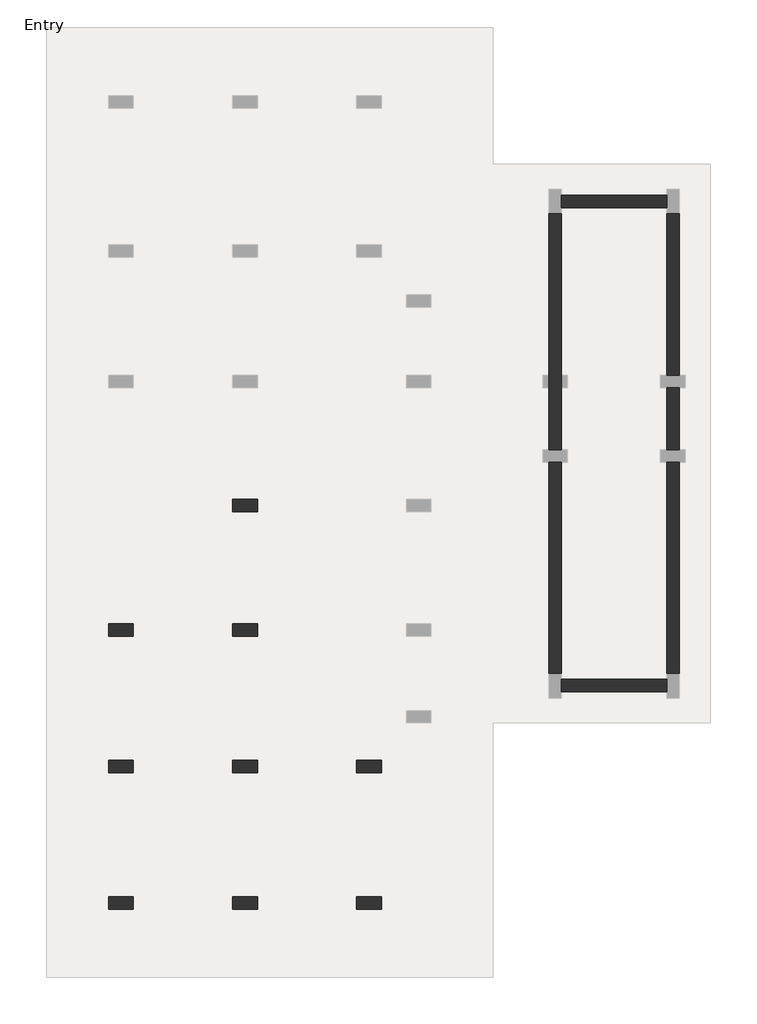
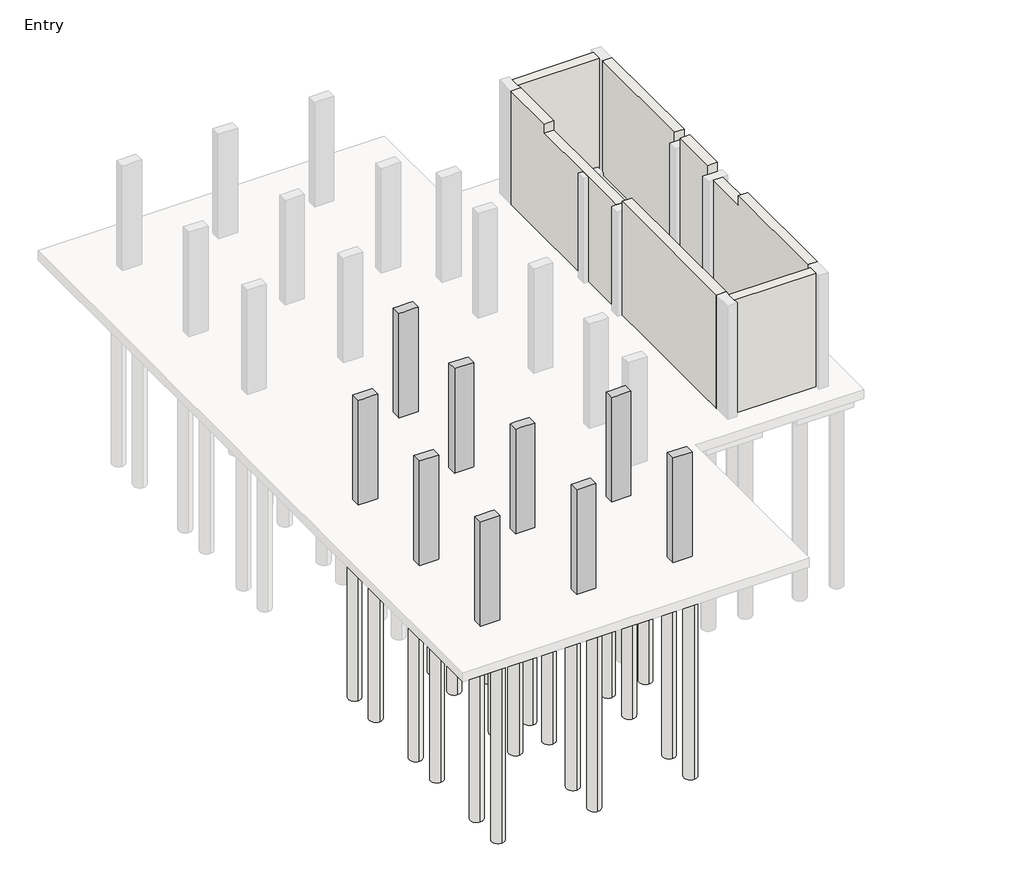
# One storey, part 1 of 3: 30 slabs, 9 columns, 7 walls.
"""IFC4 building model written with IfcOpenShell, lengths in millimetres."""

from ifc_helpers import new_model, si_unit, point, frame, frame_2d, origin, origin_with_axes, place, context, project, spatial, polyline, circle_curve, trimmed, segment, composite_curve, outline, extrude, faceted_brep, element, save

model = new_model("IFC4")

# Units and contexts
model_context = context("Model", 3, world=origin())
ifc_project = project(units=[si_unit("LENGTHUNIT", "METRE", prefix="MILLI")], contexts=[model_context])

# Site, building, storey
site = spatial("IfcSite", under=ifc_project)
building = spatial("IfcBuilding", under=site)
storey = spatial("IfcBuildingStorey", under=building, Name="Entry", Elevation=0.0)

# Columns
placement = place(None, origin())
element("IfcColumn", 1, ObjectType="Concrete-Rectangular-Column : 12 x 24", at=placement, inside=storey, context=model_context, shape_type="Brep", body=[
    faceted_brep([(-10423.1073204, 13863.0572372, 0.0), (-9813.5073204, 13863.0572372, 0.0), (-9813.5073204, 13558.2572372, 0.0), (-10423.1073204, 13558.2572372, 0.0), (-10423.1073204, 13863.0572372, 3505.2), (-10270.7073204, 13863.0572372, 3505.2), (-9965.9073204, 13863.0572372, 3505.2), (-9813.5073204, 13863.0572372, 3505.2), (-9813.5073204, 13863.0572372, 2895.6), (-9813.5073204, 13558.2572372, 3505.2), (-9813.5073204, 13558.2572372, 2895.6), (-9965.9073204, 13558.2572372, 3505.2), (-10270.7073204, 13558.2572372, 3505.2), (-10423.1073204, 13558.2572372, 3505.2)], [[[0, 1, 2, 3]], [[4, 5, 6, 7, 8, 1, 0]], [[7, 9, 10, 2, 1, 8]], [[9, 11, 12, 13, 3, 2, 10]], [[13, 4, 0, 3]], [[4, 13, 12, 11, 9, 7, 6, 5]]]),
])
element("IfcColumn", 2, ObjectType="Concrete-Rectangular-Column : 12 x 24", at=placement, inside=storey, context=model_context, shape_type="Brep", body=[
    faceted_brep([(-13471.1073204, 10815.0572372, 0.0), (-12861.5073204, 10815.0572372, 0.0), (-12861.5073204, 10510.2572372, 0.0), (-13471.1073204, 10510.2572372, 0.0), (-13471.1073204, 10815.0572372, 3505.2), (-12861.5073204, 10815.0572372, 3505.2), (-12861.5073204, 10815.0572372, 2895.6), (-12861.5073204, 10510.2572372, 3505.2), (-12861.5073204, 10510.2572372, 2895.6), (-13013.9073204, 10510.2572372, 3505.2), (-13318.7073204, 10510.2572372, 3505.2), (-13471.1073204, 10510.2572372, 3505.2)], [[[0, 1, 2, 3]], [[4, 5, 6, 1, 0]], [[5, 7, 8, 2, 1, 6]], [[7, 9, 10, 11, 3, 2, 8]], [[11, 4, 0, 3]], [[4, 11, 10, 9, 7, 5]]]),
])
element("IfcColumn", 3, ObjectType="Concrete-Rectangular-Column : 12 x 24", at=placement, inside=storey, context=model_context, shape_type="Brep", body=[
    faceted_brep([(-10423.1073204, 10815.0572372, 0.0), (-9813.5073204, 10815.0572372, 0.0), (-9813.5073204, 10510.2572372, 0.0), (-10423.1073204, 10510.2572372, 0.0), (-10423.1073204, 10815.0572372, 3505.2), (-10270.7073204, 10815.0572372, 3505.2), (-9965.9073204, 10815.0572372, 3505.2), (-9813.5073204, 10815.0572372, 3505.2), (-9813.5073204, 10815.0572372, 2895.6), (-10423.1073204, 10815.0572372, 2895.6), (-9813.5073204, 10510.2572372, 3505.2), (-9813.5073204, 10510.2572372, 2895.6), (-9965.9073204, 10510.2572372, 3505.2), (-10270.7073204, 10510.2572372, 3505.2), (-10423.1073204, 10510.2572372, 3505.2), (-10423.1073204, 10510.2572372, 2895.6)], [[[0, 1, 2, 3]], [[4, 5, 6, 7, 8, 1, 0, 9]], [[7, 10, 11, 2, 1, 8]], [[10, 12, 13, 14, 15, 3, 2, 11]], [[14, 4, 9, 0, 3, 15]], [[4, 14, 13, 12, 10, 7, 6, 5]]]),
])
element("IfcColumn", 4, ObjectType="Concrete-Rectangular-Column : 12 x 24", at=placement, inside=storey, context=model_context, shape_type="Brep", body=[
    faceted_brep([(-7375.8500241, 7462.2572372, 0.0), (-6766.2500241, 7462.2572372, 0.0), (-6766.2500241, 7157.4572372, 0.0), (-7375.8500241, 7157.4572372, 0.0), (-7375.8500241, 7462.2572372, 3505.2), (-7223.4500241, 7462.2572372, 3505.2), (-6918.6500241, 7462.2572372, 3505.2), (-6766.2500241, 7462.2572372, 3505.2), (-7375.8500241, 7462.2572372, 2895.6), (-6766.2500241, 7157.4572372, 3505.2), (-6918.6500241, 7157.4572372, 3505.2), (-7223.4500241, 7157.4572372, 3505.2), (-7375.8500241, 7157.4572372, 3505.2), (-7375.8500241, 7157.4572372, 2895.6)], [[[0, 1, 2, 3]], [[4, 5, 6, 7, 1, 0, 8]], [[7, 9, 2, 1]], [[9, 10, 11, 12, 13, 3, 2]], [[12, 4, 8, 0, 3, 13]], [[4, 12, 11, 10, 9, 7, 6, 5]]]),
])
element("IfcColumn", 5, ObjectType="Concrete-Rectangular-Column : 12 x 24", at=placement, inside=storey, context=model_context, shape_type="Brep", body=[
    faceted_brep([(-10423.1073204, 7462.2572372, 0.0), (-9813.5073204, 7462.2572372, 0.0), (-9813.5073204, 7157.4572372, 0.0), (-10423.1073204, 7157.4572372, 0.0), (-10423.1073204, 7462.2572372, 3505.2), (-10270.7073204, 7462.2572372, 3505.2), (-9965.9073204, 7462.2572372, 3505.2), (-9813.5073204, 7462.2572372, 3505.2), (-9813.5073204, 7462.2572372, 2895.6), (-10423.1073204, 7462.2572372, 2895.6), (-9813.5073204, 7157.4572372, 3505.2), (-9813.5073204, 7157.4572372, 2895.6), (-9965.9073204, 7157.4572372, 3505.2), (-10270.7073204, 7157.4572372, 3505.2), (-10423.1073204, 7157.4572372, 3505.2), (-10423.1073204, 7157.4572372, 2895.6)], [[[0, 1, 2, 3]], [[4, 5, 6, 7, 8, 1, 0, 9]], [[7, 10, 11, 2, 1, 8]], [[10, 12, 13, 14, 15, 3, 2, 11]], [[14, 4, 9, 0, 3, 15]], [[4, 14, 13, 12, 10, 7, 6, 5]]]),
])
element("IfcColumn", 6, ObjectType="Concrete-Rectangular-Column : 12 x 24", at=placement, inside=storey, context=model_context, shape_type="Brep", body=[
    faceted_brep([(-13471.1073204, 7462.2572372, 0.0), (-12861.5073204, 7462.2572372, 0.0), (-12861.5073204, 7157.4572372, 0.0), (-13471.1073204, 7157.4572372, 0.0), (-13471.1073204, 7462.2572372, 3505.2), (-13318.7073204, 7462.2572372, 3505.2), (-13013.9073204, 7462.2572372, 3505.2), (-12861.5073204, 7462.2572372, 3505.2), (-12861.5073204, 7462.2572372, 2895.6), (-12861.5073204, 7157.4572372, 3505.2), (-12861.5073204, 7157.4572372, 2895.6), (-13013.9073204, 7157.4572372, 3505.2), (-13318.7073204, 7157.4572372, 3505.2), (-13471.1073204, 7157.4572372, 3505.2)], [[[0, 1, 2, 3]], [[4, 5, 6, 7, 8, 1, 0]], [[7, 9, 10, 2, 1, 8]], [[9, 11, 12, 13, 3, 2, 10]], [[13, 4, 0, 3]], [[4, 13, 12, 11, 9, 7, 6, 5]]]),
])
element("IfcColumn", 7, ObjectType="Concrete-Rectangular-Column : 12 x 24", at=placement, inside=storey, context=model_context, shape_type="Brep", body=[
    faceted_brep([(-13471.1073204, 4109.4572372, 0.0), (-12861.5073204, 4109.4572372, 0.0), (-12861.5073204, 3804.6572372, 0.0), (-13471.1073204, 3804.6572372, 0.0), (-13471.1073204, 4109.4572372, 3505.2), (-13318.7073204, 4109.4572372, 3505.2), (-13013.9073204, 4109.4572372, 3505.2), (-12861.5073204, 4109.4572372, 3505.2), (-12861.5073204, 4109.4572372, 2895.6), (-12861.5073204, 3804.6572372, 3505.2), (-12861.5073204, 3804.6572372, 2895.6), (-13471.1073204, 3804.6572372, 3505.2)], [[[0, 1, 2, 3]], [[4, 5, 6, 7, 8, 1, 0]], [[7, 9, 10, 2, 1, 8]], [[9, 11, 3, 2, 10]], [[11, 4, 0, 3]], [[4, 11, 9, 7, 6, 5]]]),
])
element("IfcColumn", 8, ObjectType="Concrete-Rectangular-Column : 12 x 24", at=placement, inside=storey, context=model_context, shape_type="Brep", body=[
    faceted_brep([(-10423.1073204, 4109.4572372, 0.0), (-9813.5073204, 4109.4572372, 0.0), (-9813.5073204, 3804.6572372, 0.0), (-10423.1073204, 3804.6572372, 0.0), (-10423.1073204, 4109.4572372, 3505.2), (-10270.7073204, 4109.4572372, 3505.2), (-9965.9073204, 4109.4572372, 3505.2), (-9813.5073204, 4109.4572372, 3505.2), (-9813.5073204, 4109.4572372, 2895.6), (-10423.1073204, 4109.4572372, 2895.6), (-9813.5073204, 3804.6572372, 3505.2), (-9813.5073204, 3804.6572372, 2895.6), (-10423.1073204, 3804.6572372, 3505.2), (-10423.1073204, 3804.6572372, 2895.6)], [[[0, 1, 2, 3]], [[4, 5, 6, 7, 8, 1, 0, 9]], [[7, 10, 11, 2, 1, 8]], [[10, 12, 13, 3, 2, 11]], [[12, 4, 9, 0, 3, 13]], [[4, 12, 10, 7, 6, 5]]]),
])
element("IfcColumn", 9, ObjectType="Concrete-Rectangular-Column : 12 x 24", at=placement, inside=storey, context=model_context, shape_type="Brep", body=[
    faceted_brep([(-7375.1073204, 4109.4572372, 0.0), (-6765.5073204, 4109.4572372, 0.0), (-6765.5073204, 3804.6572372, 0.0), (-7375.1073204, 3804.6572372, 0.0), (-7375.1073204, 4109.4572372, 3505.2), (-7223.4500241, 4109.4572372, 3505.2), (-6918.6500241, 4109.4572372, 3505.2), (-6765.5073204, 4109.4572372, 3505.2), (-7375.1073204, 4109.4572372, 2895.6), (-6765.5073204, 3804.6572372, 3505.2), (-7375.1073204, 3804.6572372, 3505.2), (-7375.1073204, 3804.6572372, 2895.6)], [[[0, 1, 2, 3]], [[4, 5, 6, 7, 1, 0, 8]], [[7, 9, 2, 1]], [[9, 10, 11, 3, 2]], [[10, 4, 8, 0, 3, 11]], [[4, 10, 9, 7, 6, 5]]]),
])

# Slabs
element("IfcSlab", 10, ObjectType="Pile Cap-2 Pile : 31\"x61\"x35\"", at=placement, inside=storey, context=model_context, shape_type="SweptSolid", body=[
    extrude(outline(polyline([(-13572.7073204, 11551.6572372), (-12759.9073204, 11551.6572372), (-12759.9073204, 9773.6572372), (-13572.7073204, 9773.6572372), (-13572.7073204, 11551.6572372)])), frame((0.0, 0.0, -889.0), z_axis=(0.0, 0.0, 1.0), x_axis=(1.0, 0.0, 0.0)), (0.0, 0.0, 1.0), 584.2),
])
element("IfcSlab", 11, ObjectType="Pile Cap-2 Pile : 31\"x61\"x35\"", at=placement, inside=storey, context=model_context, shape_type="SweptSolid", body=[
    extrude(outline(polyline([(-13572.7073204, 8198.8572372), (-12759.9073204, 8198.8572372), (-12759.9073204, 6420.8572372), (-13572.7073204, 6420.8572372), (-13572.7073204, 8198.8572372)])), frame((0.0, 0.0, -889.0), z_axis=(0.0, 0.0, 1.0), x_axis=(1.0, 0.0, 0.0)), (0.0, 0.0, 1.0), 584.2),
])
element("IfcSlab", 12, ObjectType="Pile Cap-2 Pile : 31\"x61\"x35\"", at=placement, inside=storey, context=model_context, shape_type="SweptSolid", body=[
    extrude(outline(polyline([(-13572.7073204, 4846.0572372), (-12759.9073204, 4846.0572372), (-12759.9073204, 3068.0572372), (-13572.7073204, 3068.0572372), (-13572.7073204, 4846.0572372)])), frame((0.0, 0.0, -889.0), z_axis=(0.0, 0.0, 1.0), x_axis=(1.0, 0.0, 0.0)), (0.0, 0.0, 1.0), 584.2),
])
element("IfcSlab", 13, ObjectType="Pile Cap-2 Pile : 31\"x61\"x35\"", at=placement, inside=storey, context=model_context, shape_type="SweptSolid", body=[
    extrude(outline(polyline([(-10524.7073204, 4846.0572372), (-9711.9073204, 4846.0572372), (-9711.9073204, 3068.0572372), (-10524.7073204, 3068.0572372), (-10524.7073204, 4846.0572372)])), frame((0.0, 0.0, -889.0), z_axis=(0.0, 0.0, 1.0), x_axis=(1.0, 0.0, 0.0)), (0.0, 0.0, 1.0), 584.2),
])
element("IfcSlab", 14, ObjectType="Pile Cap-2 Pile : 31\"x61\"x35\"", at=placement, inside=storey, context=model_context, shape_type="SweptSolid", body=[
    extrude(outline(polyline([(-7476.7073204, 4846.0572372), (-6663.9073204, 4846.0572372), (-6663.9073204, 3068.0572372), (-7476.7073204, 3068.0572372), (-7476.7073204, 4846.0572372)])), frame((0.0, 0.0, -889.0), z_axis=(0.0, 0.0, 1.0), x_axis=(1.0, 0.0, 0.0)), (0.0, 0.0, 1.0), 584.2),
])
element("IfcSlab", 15, ObjectType="Pile Cap-2 Pile : 31\"x61\"x35\"", at=placement, inside=storey, context=model_context, shape_type="SweptSolid", body=[
    extrude(outline(polyline([(-7477.4500241, 8198.8572372), (-6664.6500241, 8198.8572372), (-6664.6500241, 6420.8572372), (-7477.4500241, 6420.8572372), (-7477.4500241, 8198.8572372)])), frame((0.0, 0.0, -889.0), z_axis=(0.0, 0.0, 1.0), x_axis=(1.0, 0.0, 0.0)), (0.0, 0.0, 1.0), 584.2),
])
element("IfcSlab", 16, ObjectType="Pile Cap-4 Pile : 72\"x72\"x35\"", at=placement, inside=storey, context=model_context, shape_type="SweptSolid", body=[
    extrude(outline(polyline([(-11032.7073204, 14625.0572372), (-9203.9073204, 14625.0572372), (-9203.9073204, 12796.2572372), (-11032.7073204, 12796.2572372), (-11032.7073204, 14625.0572372)])), frame((0.0, 0.0, -889.0), z_axis=(0.0, 0.0, 1.0), x_axis=(1.0, 0.0, 0.0)), (0.0, 0.0, 1.0), 584.2),
])
element("IfcSlab", 17, ObjectType="Pile Cap-4 Pile : 72\"x72\"x35\"", at=placement, inside=storey, context=model_context, shape_type="SweptSolid", body=[
    extrude(outline(polyline([(-11032.7073204, 11577.0572372), (-9203.9073204, 11577.0572372), (-9203.9073204, 9748.2572372), (-11032.7073204, 9748.2572372), (-11032.7073204, 11577.0572372)])), frame((0.0, 0.0, -889.0), z_axis=(0.0, 0.0, 1.0), x_axis=(1.0, 0.0, 0.0)), (0.0, 0.0, 1.0), 584.2),
])
element("IfcSlab", 18, ObjectType="Pile Cap-4 Pile : 72\"x72\"x35\"", at=placement, inside=storey, context=model_context, shape_type="SweptSolid", body=[
    extrude(outline(polyline([(-11032.7073204, 8224.2572372), (-9203.9073204, 8224.2572372), (-9203.9073204, 6395.4572372), (-11032.7073204, 6395.4572372), (-11032.7073204, 8224.2572372)])), frame((0.0, 0.0, -889.0), z_axis=(0.0, 0.0, 1.0), x_axis=(1.0, 0.0, 0.0)), (0.0, 0.0, 1.0), 584.2),
])
element("IfcSlab", 19, ObjectType="Pile-Steel Pipe : 16\" Diameter", at=placement, inside=storey, context=model_context, shape_type="SweptSolid", body=[
    extrude(outline(composite_curve([segment(trimmed(circle_curve(frame_2d((-10651.7073204, 10129.2572372)), 203.2), [point((-10651.7073204, 9926.0572372))], [point((-10651.7073204, 10332.4572372))], False, "CARTESIAN"), True, "CONTINUOUS"), segment(trimmed(circle_curve(frame_2d((-10651.7073204, 10129.2572372)), 203.2), [point((-10651.7073204, 10332.4572372))], [point((-10651.7073204, 9926.0572372))], False, "CARTESIAN"), True, "CONTINUOUS")], self_intersect=False)), frame((0.0, 0.0, -6985.0), z_axis=(0.0, 0.0, 1.0), x_axis=(1.0, 0.0, 0.0)), (0.0, 0.0, 1.0), 6096.0),
])
element("IfcSlab", 20, ObjectType="Pile-Steel Pipe : 16\" Diameter", at=placement, inside=storey, context=model_context, shape_type="SweptSolid", body=[
    extrude(outline(composite_curve([segment(trimmed(circle_curve(frame_2d((-9584.9073204, 10129.2572372)), 203.2), [point((-9584.9073204, 9926.0572372))], [point((-9584.9073204, 10332.4572372))], False, "CARTESIAN"), True, "CONTINUOUS"), segment(trimmed(circle_curve(frame_2d((-9584.9073204, 10129.2572372)), 203.2), [point((-9584.9073204, 10332.4572372))], [point((-9584.9073204, 9926.0572372))], False, "CARTESIAN"), True, "CONTINUOUS")], self_intersect=False)), frame((0.0, 0.0, -6985.0), z_axis=(0.0, 0.0, 1.0), x_axis=(1.0, 0.0, 0.0)), (0.0, 0.0, 1.0), 6096.0),
])
element("IfcSlab", 21, ObjectType="Pile-Steel Pipe : 16\" Diameter", at=placement, inside=storey, context=model_context, shape_type="SweptSolid", body=[
    extrude(outline(composite_curve([segment(trimmed(circle_curve(frame_2d((-9584.9073204, 11196.0572372)), 203.2), [point((-9584.9073204, 10992.8572372))], [point((-9584.9073204, 11399.2572372))], False, "CARTESIAN"), True, "CONTINUOUS"), segment(trimmed(circle_curve(frame_2d((-9584.9073204, 11196.0572372)), 203.2), [point((-9584.9073204, 11399.2572372))], [point((-9584.9073204, 10992.8572372))], False, "CARTESIAN"), True, "CONTINUOUS")], self_intersect=False)), frame((0.0, 0.0, -6985.0), z_axis=(0.0, 0.0, 1.0), x_axis=(1.0, 0.0, 0.0)), (0.0, 0.0, 1.0), 6096.0),
])
element("IfcSlab", 22, ObjectType="Pile-Steel Pipe : 16\" Diameter", at=placement, inside=storey, context=model_context, shape_type="SweptSolid", body=[
    extrude(outline(composite_curve([segment(trimmed(circle_curve(frame_2d((-10651.7073204, 11196.0572372)), 203.2), [point((-10651.7073204, 10992.8572372))], [point((-10651.7073204, 11399.2572372))], False, "CARTESIAN"), True, "CONTINUOUS"), segment(trimmed(circle_curve(frame_2d((-10651.7073204, 11196.0572372)), 203.2), [point((-10651.7073204, 11399.2572372))], [point((-10651.7073204, 10992.8572372))], False, "CARTESIAN"), True, "CONTINUOUS")], self_intersect=False)), frame((0.0, 0.0, -6985.0), z_axis=(0.0, 0.0, 1.0), x_axis=(1.0, 0.0, 0.0)), (0.0, 0.0, 1.0), 6096.0),
])
element("IfcSlab", 23, ObjectType="Pile-Steel Pipe : 16\" Diameter", at=placement, inside=storey, context=model_context, shape_type="SweptSolid", body=[
    extrude(outline(composite_curve([segment(trimmed(circle_curve(frame_2d((-10651.7073204, 6776.4572372)), 203.2), [point((-10651.7073204, 6573.2572372))], [point((-10651.7073204, 6979.6572372))], False, "CARTESIAN"), True, "CONTINUOUS"), segment(trimmed(circle_curve(frame_2d((-10651.7073204, 6776.4572372)), 203.2), [point((-10651.7073204, 6979.6572372))], [point((-10651.7073204, 6573.2572372))], False, "CARTESIAN"), True, "CONTINUOUS")], self_intersect=False)), frame((0.0, 0.0, -6985.0), z_axis=(0.0, 0.0, 1.0), x_axis=(1.0, 0.0, 0.0)), (0.0, 0.0, 1.0), 6096.0),
])
element("IfcSlab", 24, ObjectType="Pile-Steel Pipe : 16\" Diameter", at=placement, inside=storey, context=model_context, shape_type="SweptSolid", body=[
    extrude(outline(composite_curve([segment(trimmed(circle_curve(frame_2d((-9584.9073204, 6776.4572372)), 203.2), [point((-9584.9073204, 6573.2572372))], [point((-9584.9073204, 6979.6572372))], False, "CARTESIAN"), True, "CONTINUOUS"), segment(trimmed(circle_curve(frame_2d((-9584.9073204, 6776.4572372)), 203.2), [point((-9584.9073204, 6979.6572372))], [point((-9584.9073204, 6573.2572372))], False, "CARTESIAN"), True, "CONTINUOUS")], self_intersect=False)), frame((0.0, 0.0, -6985.0), z_axis=(0.0, 0.0, 1.0), x_axis=(1.0, 0.0, 0.0)), (0.0, 0.0, 1.0), 6096.0),
])
element("IfcSlab", 25, ObjectType="Pile-Steel Pipe : 16\" Diameter", at=placement, inside=storey, context=model_context, shape_type="SweptSolid", body=[
    extrude(outline(composite_curve([segment(trimmed(circle_curve(frame_2d((-9584.9073204, 7843.2572372)), 203.2), [point((-9584.9073204, 7640.0572372))], [point((-9584.9073204, 8046.4572372))], False, "CARTESIAN"), True, "CONTINUOUS"), segment(trimmed(circle_curve(frame_2d((-9584.9073204, 7843.2572372)), 203.2), [point((-9584.9073204, 8046.4572372))], [point((-9584.9073204, 7640.0572372))], False, "CARTESIAN"), True, "CONTINUOUS")], self_intersect=False)), frame((0.0, 0.0, -6985.0), z_axis=(0.0, 0.0, 1.0), x_axis=(1.0, 0.0, 0.0)), (0.0, 0.0, 1.0), 6096.0),
])
element("IfcSlab", 26, ObjectType="Pile-Steel Pipe : 16\" Diameter", at=placement, inside=storey, context=model_context, shape_type="SweptSolid", body=[
    extrude(outline(composite_curve([segment(trimmed(circle_curve(frame_2d((-10651.7073204, 7843.2572372)), 203.2), [point((-10651.7073204, 7640.0572372))], [point((-10651.7073204, 8046.4572372))], False, "CARTESIAN"), True, "CONTINUOUS"), segment(trimmed(circle_curve(frame_2d((-10651.7073204, 7843.2572372)), 203.2), [point((-10651.7073204, 8046.4572372))], [point((-10651.7073204, 7640.0572372))], False, "CARTESIAN"), True, "CONTINUOUS")], self_intersect=False)), frame((0.0, 0.0, -6985.0), z_axis=(0.0, 0.0, 1.0), x_axis=(1.0, 0.0, 0.0)), (0.0, 0.0, 1.0), 6096.0),
])
element("IfcSlab", 27, ObjectType="Pile-Steel Pipe : 16\" Diameter", at=placement, inside=storey, context=model_context, shape_type="SweptSolid", body=[
    extrude(outline(composite_curve([segment(trimmed(circle_curve(frame_2d((-13166.3073204, 10078.4572372)), 203.2), [point((-13166.3073204, 9875.2572372))], [point((-13166.3073204, 10281.6572372))], False, "CARTESIAN"), True, "CONTINUOUS"), segment(trimmed(circle_curve(frame_2d((-13166.3073204, 10078.4572372)), 203.2), [point((-13166.3073204, 10281.6572372))], [point((-13166.3073204, 9875.2572372))], False, "CARTESIAN"), True, "CONTINUOUS")], self_intersect=False)), frame((0.0, 0.0, -6985.0), z_axis=(0.0, 0.0, 1.0), x_axis=(1.0, 0.0, 0.0)), (0.0, 0.0, 1.0), 6096.0),
])
element("IfcSlab", 28, ObjectType="Pile-Steel Pipe : 16\" Diameter", at=placement, inside=storey, context=model_context, shape_type="SweptSolid", body=[
    extrude(outline(composite_curve([segment(trimmed(circle_curve(frame_2d((-13166.3073204, 11246.8572372)), 203.2), [point((-13166.3073204, 11043.6572372))], [point((-13166.3073204, 11450.0572372))], False, "CARTESIAN"), True, "CONTINUOUS"), segment(trimmed(circle_curve(frame_2d((-13166.3073204, 11246.8572372)), 203.2), [point((-13166.3073204, 11450.0572372))], [point((-13166.3073204, 11043.6572372))], False, "CARTESIAN"), True, "CONTINUOUS")], self_intersect=False)), frame((0.0, 0.0, -6985.0), z_axis=(0.0, 0.0, 1.0), x_axis=(1.0, 0.0, 0.0)), (0.0, 0.0, 1.0), 6096.0),
])
element("IfcSlab", 29, ObjectType="Pile-Steel Pipe : 16\" Diameter", at=placement, inside=storey, context=model_context, shape_type="SweptSolid", body=[
    extrude(outline(composite_curve([segment(trimmed(circle_curve(frame_2d((-13166.3073204, 6725.6572372)), 203.2), [point((-13166.3073204, 6522.4572372))], [point((-13166.3073204, 6928.8572372))], False, "CARTESIAN"), True, "CONTINUOUS"), segment(trimmed(circle_curve(frame_2d((-13166.3073204, 6725.6572372)), 203.2), [point((-13166.3073204, 6928.8572372))], [point((-13166.3073204, 6522.4572372))], False, "CARTESIAN"), True, "CONTINUOUS")], self_intersect=False)), frame((0.0, 0.0, -6985.0), z_axis=(0.0, 0.0, 1.0), x_axis=(1.0, 0.0, 0.0)), (0.0, 0.0, 1.0), 6096.0),
])
element("IfcSlab", 30, ObjectType="Pile-Steel Pipe : 16\" Diameter", at=placement, inside=storey, context=model_context, shape_type="SweptSolid", body=[
    extrude(outline(composite_curve([segment(trimmed(circle_curve(frame_2d((-13166.3073204, 7894.0572372)), 203.2), [point((-13166.3073204, 7690.8572372))], [point((-13166.3073204, 8097.2572372))], False, "CARTESIAN"), True, "CONTINUOUS"), segment(trimmed(circle_curve(frame_2d((-13166.3073204, 7894.0572372)), 203.2), [point((-13166.3073204, 8097.2572372))], [point((-13166.3073204, 7690.8572372))], False, "CARTESIAN"), True, "CONTINUOUS")], self_intersect=False)), frame((0.0, 0.0, -6985.0), z_axis=(0.0, 0.0, 1.0), x_axis=(1.0, 0.0, 0.0)), (0.0, 0.0, 1.0), 6096.0),
])
element("IfcSlab", 31, ObjectType="Pile-Steel Pipe : 16\" Diameter", at=placement, inside=storey, context=model_context, shape_type="SweptSolid", body=[
    extrude(outline(composite_curve([segment(trimmed(circle_curve(frame_2d((-13166.3073204, 3372.8572372)), 203.2), [point((-13166.3073204, 3169.6572372))], [point((-13166.3073204, 3576.0572372))], False, "CARTESIAN"), True, "CONTINUOUS"), segment(trimmed(circle_curve(frame_2d((-13166.3073204, 3372.8572372)), 203.2), [point((-13166.3073204, 3576.0572372))], [point((-13166.3073204, 3169.6572372))], False, "CARTESIAN"), True, "CONTINUOUS")], self_intersect=False)), frame((0.0, 0.0, -6985.0), z_axis=(0.0, 0.0, 1.0), x_axis=(1.0, 0.0, 0.0)), (0.0, 0.0, 1.0), 6096.0),
])
element("IfcSlab", 32, ObjectType="Pile-Steel Pipe : 16\" Diameter", at=placement, inside=storey, context=model_context, shape_type="SweptSolid", body=[
    extrude(outline(composite_curve([segment(trimmed(circle_curve(frame_2d((-13166.3073204, 4541.2572372)), 203.2), [point((-13166.3073204, 4338.0572372))], [point((-13166.3073204, 4744.4572372))], False, "CARTESIAN"), True, "CONTINUOUS"), segment(trimmed(circle_curve(frame_2d((-13166.3073204, 4541.2572372)), 203.2), [point((-13166.3073204, 4744.4572372))], [point((-13166.3073204, 4338.0572372))], False, "CARTESIAN"), True, "CONTINUOUS")], self_intersect=False)), frame((0.0, 0.0, -6985.0), z_axis=(0.0, 0.0, 1.0), x_axis=(1.0, 0.0, 0.0)), (0.0, 0.0, 1.0), 6096.0),
])
element("IfcSlab", 33, ObjectType="Pile-Steel Pipe : 16\" Diameter", at=placement, inside=storey, context=model_context, shape_type="SweptSolid", body=[
    extrude(outline(composite_curve([segment(trimmed(circle_curve(frame_2d((-10118.3073204, 3372.8572372)), 203.2), [point((-10118.3073204, 3169.6572372))], [point((-10118.3073204, 3576.0572372))], False, "CARTESIAN"), True, "CONTINUOUS"), segment(trimmed(circle_curve(frame_2d((-10118.3073204, 3372.8572372)), 203.2), [point((-10118.3073204, 3576.0572372))], [point((-10118.3073204, 3169.6572372))], False, "CARTESIAN"), True, "CONTINUOUS")], self_intersect=False)), frame((0.0, 0.0, -6985.0), z_axis=(0.0, 0.0, 1.0), x_axis=(1.0, 0.0, 0.0)), (0.0, 0.0, 1.0), 6096.0),
])
element("IfcSlab", 34, ObjectType="Pile-Steel Pipe : 16\" Diameter", at=placement, inside=storey, context=model_context, shape_type="SweptSolid", body=[
    extrude(outline(composite_curve([segment(trimmed(circle_curve(frame_2d((-10118.3073204, 4541.2572372)), 203.2), [point((-10118.3073204, 4338.0572372))], [point((-10118.3073204, 4744.4572372))], False, "CARTESIAN"), True, "CONTINUOUS"), segment(trimmed(circle_curve(frame_2d((-10118.3073204, 4541.2572372)), 203.2), [point((-10118.3073204, 4744.4572372))], [point((-10118.3073204, 4338.0572372))], False, "CARTESIAN"), True, "CONTINUOUS")], self_intersect=False)), frame((0.0, 0.0, -6985.0), z_axis=(0.0, 0.0, 1.0), x_axis=(1.0, 0.0, 0.0)), (0.0, 0.0, 1.0), 6096.0),
])
element("IfcSlab", 35, ObjectType="Pile-Steel Pipe : 16\" Diameter", at=placement, inside=storey, context=model_context, shape_type="SweptSolid", body=[
    extrude(outline(composite_curve([segment(trimmed(circle_curve(frame_2d((-7070.3073204, 3372.8572372)), 203.2), [point((-7070.3073204, 3169.6572372))], [point((-7070.3073204, 3576.0572372))], False, "CARTESIAN"), True, "CONTINUOUS"), segment(trimmed(circle_curve(frame_2d((-7070.3073204, 3372.8572372)), 203.2), [point((-7070.3073204, 3576.0572372))], [point((-7070.3073204, 3169.6572372))], False, "CARTESIAN"), True, "CONTINUOUS")], self_intersect=False)), frame((0.0, 0.0, -6985.0), z_axis=(0.0, 0.0, 1.0), x_axis=(1.0, 0.0, 0.0)), (0.0, 0.0, 1.0), 6096.0),
])
element("IfcSlab", 36, ObjectType="Pile-Steel Pipe : 16\" Diameter", at=placement, inside=storey, context=model_context, shape_type="SweptSolid", body=[
    extrude(outline(composite_curve([segment(trimmed(circle_curve(frame_2d((-7070.3073204, 4541.2572372)), 203.2), [point((-7070.3073204, 4338.0572372))], [point((-7070.3073204, 4744.4572372))], False, "CARTESIAN"), True, "CONTINUOUS"), segment(trimmed(circle_curve(frame_2d((-7070.3073204, 4541.2572372)), 203.2), [point((-7070.3073204, 4744.4572372))], [point((-7070.3073204, 4338.0572372))], False, "CARTESIAN"), True, "CONTINUOUS")], self_intersect=False)), frame((0.0, 0.0, -6985.0), z_axis=(0.0, 0.0, 1.0), x_axis=(1.0, 0.0, 0.0)), (0.0, 0.0, 1.0), 6096.0),
])
element("IfcSlab", 37, ObjectType="Pile-Steel Pipe : 16\" Diameter", at=placement, inside=storey, context=model_context, shape_type="SweptSolid", body=[
    extrude(outline(composite_curve([segment(trimmed(circle_curve(frame_2d((-7071.0500241, 6725.6572372)), 203.2), [point((-7071.0500241, 6522.4572372))], [point((-7071.0500241, 6928.8572372))], False, "CARTESIAN"), True, "CONTINUOUS"), segment(trimmed(circle_curve(frame_2d((-7071.0500241, 6725.6572372)), 203.2), [point((-7071.0500241, 6928.8572372))], [point((-7071.0500241, 6522.4572372))], False, "CARTESIAN"), True, "CONTINUOUS")], self_intersect=False)), frame((0.0, 0.0, -6985.0), z_axis=(0.0, 0.0, 1.0), x_axis=(1.0, 0.0, 0.0)), (0.0, 0.0, 1.0), 6096.0),
])
element("IfcSlab", 38, ObjectType="Pile-Steel Pipe : 16\" Diameter", at=placement, inside=storey, context=model_context, shape_type="SweptSolid", body=[
    extrude(outline(composite_curve([segment(trimmed(circle_curve(frame_2d((-7071.0500241, 7894.0572372)), 203.2), [point((-7071.0500241, 7690.8572372))], [point((-7071.0500241, 8097.2572372))], False, "CARTESIAN"), True, "CONTINUOUS"), segment(trimmed(circle_curve(frame_2d((-7071.0500241, 7894.0572372)), 203.2), [point((-7071.0500241, 8097.2572372))], [point((-7071.0500241, 7690.8572372))], False, "CARTESIAN"), True, "CONTINUOUS")], self_intersect=False)), frame((0.0, 0.0, -6985.0), z_axis=(0.0, 0.0, 1.0), x_axis=(1.0, 0.0, 0.0)), (0.0, 0.0, 1.0), 6096.0),
])
element("IfcSlab", 39, ObjectType="Pile-Steel Pipe : 16\" Diameter", at=placement, inside=storey, context=model_context, shape_type="SweptSolid", body=[
    extrude(outline(composite_curve([segment(trimmed(circle_curve(frame_2d((-5851.8500241, 7944.8572372)), 203.2), [point((-5851.8500241, 7741.6572372))], [point((-5851.8500241, 8148.0572372))], False, "CARTESIAN"), True, "CONTINUOUS"), segment(trimmed(circle_curve(frame_2d((-5851.8500241, 7944.8572372)), 203.2), [point((-5851.8500241, 8148.0572372))], [point((-5851.8500241, 7741.6572372))], False, "CARTESIAN"), True, "CONTINUOUS")], self_intersect=False)), frame((0.0, 0.0, -6985.0), z_axis=(0.0, 0.0, 1.0), x_axis=(1.0, 0.0, 0.0)), (0.0, 0.0, 1.0), 6096.0),
])

# Walls
element("IfcWall", 40, ObjectType="Core-Shaft - 12\" Concrete", at=placement, inside=storey, context=model_context, shape_type="SweptSolid", body=[
    extrude(outline(polyline([(242.3860546, 21025.8572372), (-2346.6500241, 21025.8572372), (-2346.6500241, 21330.6572372), (242.3860546, 21330.6572372), (242.3860546, 21025.8572372)])), origin_with_axes(), (0.0, 0.0, 1.0), 3810.0),
])
element("IfcWall", 41, ObjectType="Core-Shaft - 12\" Concrete", at=placement, inside=storey, context=model_context, shape_type="SweptSolid", body=[
    extrude(outline(polyline([(242.3860546, 16911.0572372), (242.3860546, 20873.4572372), (547.1860546, 20873.4572372), (547.1860546, 16911.0572372), (242.3860546, 16911.0572372)])), origin_with_axes(), (0.0, 0.0, 1.0), 3810.0),
])
element("IfcWall", 42, ObjectType="Core-Shaft - 12\" Concrete", at=placement, inside=storey, context=model_context, shape_type="SweptSolid", body=[
    extrude(outline(polyline([(242.3860546, 15082.2572372), (242.3860546, 16606.2572372), (547.1860546, 16606.2572372), (547.1860546, 15082.2572372), (242.3860546, 15082.2572372)])), origin_with_axes(), (0.0, 0.0, 1.0), 3810.0),
])
element("IfcWall", 43, ObjectType="Core-Shaft - 12\" Concrete", at=placement, inside=storey, context=model_context, shape_type="SweptSolid", body=[
    extrude(outline(polyline([(14777.4572372, 0.0), (9595.8572372, 0.0), (9595.8572372, 3810.0), (13405.8572372, 3810.0), (13405.8572372, 3505.2), (14777.4572372, 3505.2), (14777.4572372, 0.0)])), frame((242.3860546, 0.0, 0.0), z_axis=(1.0, 0.0, 0.0), x_axis=(0.0, 1.0, 0.0)), (0.0, 0.0, 1.0), 304.8),
])
element("IfcWall", 44, ObjectType="Core-Shaft - 12\" Concrete", at=placement, inside=storey, context=model_context, shape_type="SweptSolid", body=[
    extrude(outline(polyline([(-2346.6500241, 9443.4572372), (242.3860546, 9443.4572372), (242.3860546, 9138.6572372), (-2346.6500241, 9138.6572372), (-2346.6500241, 9443.4572372)])), origin_with_axes(), (0.0, 0.0, 1.0), 3810.0),
])
element("IfcWall", 45, ObjectType="Core-Shaft - 12\" Concrete", at=placement, inside=storey, context=model_context, shape_type="SweptSolid", body=[
    extrude(outline(polyline([(-2346.6500241, 14777.4572372), (-2346.6500241, 9595.8572372), (-2651.4500241, 9595.8572372), (-2651.4500241, 14777.4572372), (-2346.6500241, 14777.4572372)])), origin_with_axes(), (0.0, 0.0, 1.0), 3810.0),
])
element("IfcWall", 46, ObjectType="Core-Shaft - 12\" Concrete", at=placement, inside=storey, context=model_context, shape_type="Brep", body=[
    faceted_brep([(-2346.6500241, 15082.2572372, 0.0), (-2346.6500241, 16606.2572372, 0.0), (-2346.6500241, 16911.0572372, 0.0), (-2346.6500241, 20873.4572372, 0.0), (-2346.6500241, 20873.4572372, 3810.0), (-2346.6500241, 19044.6572372, 3810.0), (-2346.6500241, 19044.6572372, 3505.2), (-2346.6500241, 16911.0572372, 3505.2), (-2346.6500241, 16606.2572372, 3505.2), (-2346.6500241, 15082.2572372, 3505.2), (-2651.4500241, 20873.4572372, 0.0), (-2651.4500241, 16911.0572372, 0.0), (-2651.4500241, 16606.2572372, 0.0), (-2651.4500241, 15082.2572372, 0.0), (-2651.4500241, 15082.2572372, 3505.2), (-2651.4500241, 16606.2572372, 3505.2), (-2651.4500241, 16911.0572372, 3505.2), (-2651.4500241, 19044.6572372, 3505.2), (-2651.4500241, 19044.6572372, 3810.0), (-2651.4500241, 20873.4572372, 3810.0)], [[[0, 1, 2, 3, 4, 5, 6, 7, 8, 9]], [[10, 11, 12, 13, 14, 15, 16, 17, 18, 19]], [[3, 2, 1, 0, 13, 12, 11, 10]], [[4, 3, 10, 19]], [[4, 19, 18, 5]], [[13, 0, 9, 14]], [[6, 17, 16, 15, 14, 9, 8, 7]], [[17, 6, 5, 18]]]),
])

save(model, "model.ifc")
